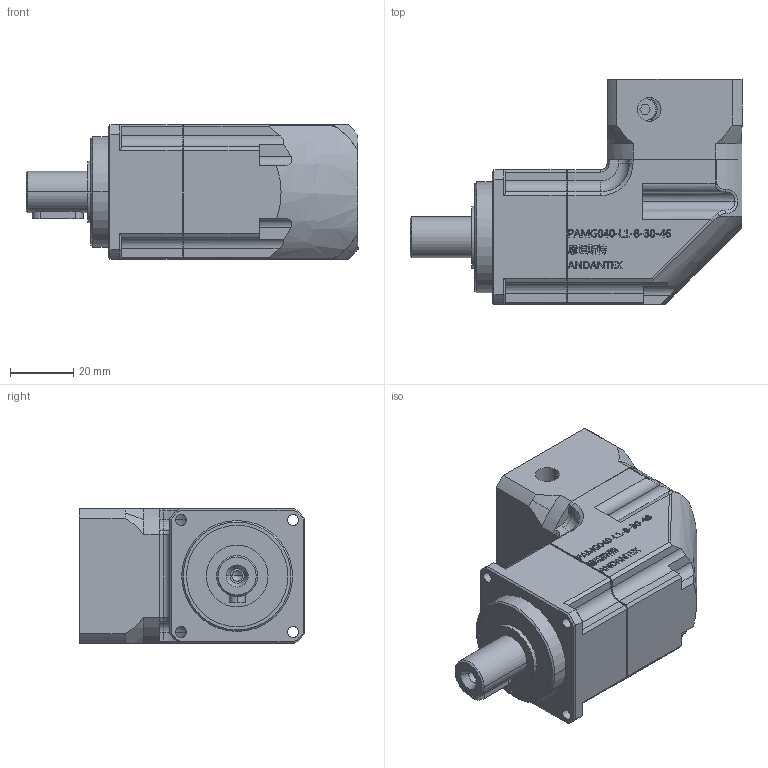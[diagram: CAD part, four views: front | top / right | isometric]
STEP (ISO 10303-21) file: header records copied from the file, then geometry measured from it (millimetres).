
FILE_DESCRIPTION (( 'STEP AP203' ), '1' );
FILE_NAME ('PAMG040-L1-8-30-46.STEP', '2022-07-16T08:45:43', ( 'Windows User' ), ( 'P R C' ), 'SwSTEP 2.0', 'SolidWorks 2016', '' );
FILE_SCHEMA (( 'CONFIG_CONTROL_DESIGN' ));
Length unit declared in the file: millimetre
Products named in the file (9): PAMG040-喘謫粣_GearTrax_1; PAMG040-蟀諉啣_1; PAMG040-SJH(坶踡遠謂11)_1; GB／T70．1-2000内六角圆柱头螺钉M4×12; 5X5X16; PAMG040-L1-8-30-46; PAMG040-眊极_1; PAMG040-CQ01; GB／T276-94深沟球轴承6002-2Z
Assembly tree (8 placements, depth 2):
  PAMG040-L1-8-30-46
    PAMG040-眊极_1
    PAMG040-CQ01
    GB／T276-94深沟球轴承6002-2Z
    PAMG040-喘謫粣_GearTrax_1
    PAMG040-蟀諉啣_1
    PAMG040-SJH(坶踡遠謂11)_1
    GB／T70．1-2000内六角圆柱头螺钉M4×12
    5X5X16
Bounding box: 104.8 x 71.1 x 42.6 mm (x, y, z)
Volume: 157768.2 mm3; surface area: 47654.5 mm2
Topology: 8 solids, 8 shells, 1149 faces, 3106 edges, 2031 vertices
Faces by surface type: plane 581, cylinder 197, bspline 171, sphere 78, cone 74, torus 48
Entity records: 47303 total; most frequent: CARTESIAN_POINT 18668, ORIENTED_EDGE 6172, DIRECTION 5047, EDGE_CURVE 3086, VERTEX_POINT 2031, VECTOR 1713, LINE 1713, AXIS2_PLACEMENT_3D 1667
